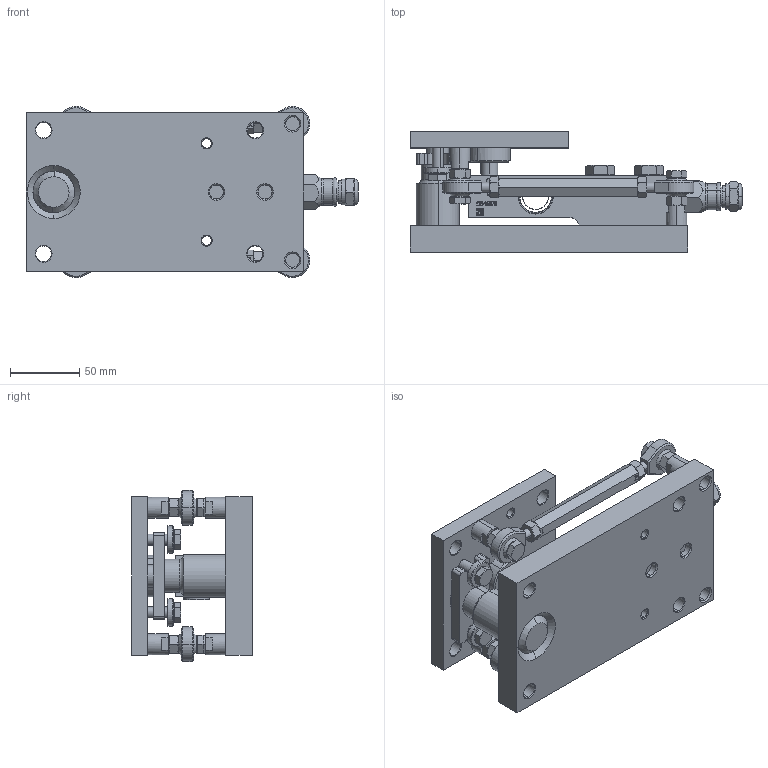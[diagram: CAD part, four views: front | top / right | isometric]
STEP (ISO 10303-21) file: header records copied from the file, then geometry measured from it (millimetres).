
FILE_DESCRIPTION (( 'STEP AP214' ), '1' );
FILE_NAME ('Load_Point_HI ONELP-H-1.125KLB-4.5KLB-XX_With Check Links.STEP', '2016-08-18T21:38:53', ( 'Jim' ), ( 'Hewlett-Packard Company' ), 'SwSTEP 2.0', 'SolidWorks 2015', '' );
FILE_SCHEMA (( 'AUTOMOTIVE_DESIGN' ));
Length unit declared in the file: millimetre
Products named in the file (33): Center Pillar; Load Cup; Base Plate; Hex Screw GradeAB_ISO_ISO 4017 - M12 x 50-N-A2.70; Load Sensor; Load_Point_HI ONELP-H-1.125KLB-4.5KLB-XX_With Check Links; 0045191; 0019744; 0006668; 0005558; 0005556; 0006798; ROCKER PIN ASSEMBLY; 0006697; O-Ring; 0009442; Rocker Pin; 0005552; Hex Screw GradeAB_ISO_ISO 4017 - M8 x 30-N-A2.70; 0005550; Stabilizer Rod Assembly; 0006620; 0066010_93510A125; Stabilizer Rod Standoff; 0066008_94150A355; Lift-Off Washer; Hex Screw GradeAB_ISO_ISO 4017 - M8 x 25-N-A2.70; Top Plate; 0061620; Base Plate Assembly; 0061619; Lift-Off Plate; 0061618
Assembly tree (43 placements, depth 3):
  Load_Point_HI ONELP-H-1.125KLB-4.5KLB-XX_With Check Links
    Base Plate Assembly
      Base Plate
      Center Pillar
      Lift-Off Plate
    Top Plate
    Lift-Off Washer  x2
    Stabilizer Rod Standoff  x4
    Load Sensor
      0006620
      0005550
      0005552
      0009442
      0006697
      0006798
      0005556
      0005558
      0006668
      0019744
      0045191
    Hex Screw GradeAB_ISO_ISO 4017 - M12 x 50-N-A2.70  x2
    Load Cup
    Stabilizer Rod Assembly  x2
      0061618
      0061619
      0061620
      Hex Screw GradeAB_ISO_ISO 4017 - M8 x 25-N-A2.70
      0066008_94150A355
      0066010_93510A125
    Hex Screw GradeAB_ISO_ISO 4017 - M8 x 30-N-A2.70  x2
    ROCKER PIN ASSEMBLY
      Rocker Pin
      O-Ring  x2
Bounding box: 239.13 x 86.75 x 123.29 mm (x, y, z)
Volume: 837293.9 mm3; surface area: 209541.7 mm2
Topology: 47 solids, 47 shells, 8040 faces, 22121 edges, 14939 vertices
Faces by surface type: bspline 4730, plane 2167, cylinder 626, cone 447, torus 70
Entity records: 383067 total; most frequent: CARTESIAN_POINT 219332, ORIENTED_EDGE 41130, EDGE_CURVE 20565, DIRECTION 17292, VERTEX_POINT 14002, B_SPLINE_CURVE_WITH_KNOTS 10024, VECTOR 8654, LINE 8654
